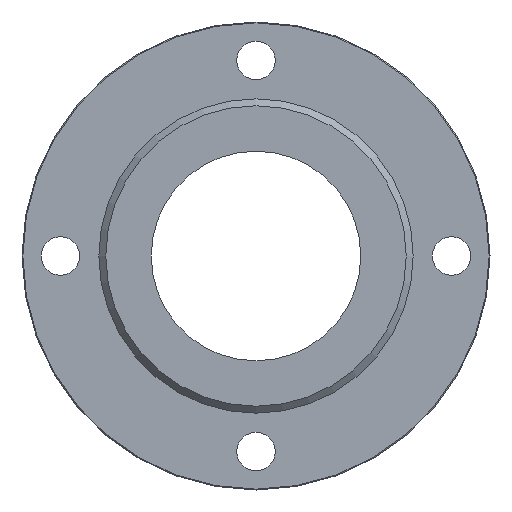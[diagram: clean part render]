
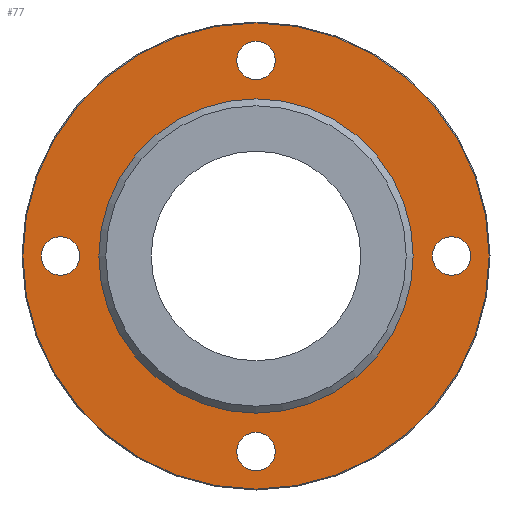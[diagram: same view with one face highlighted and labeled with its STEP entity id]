
A CAD part, left-side view. The second image highlights one B-rep face of the part: STEP entity #77.
In plain terms, the highlighted planar face has unit normal (-1, 0, 0).
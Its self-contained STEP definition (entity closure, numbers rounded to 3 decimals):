
#77=ADVANCED_FACE('',(#103,#104,#105,#106,#107,#108),#109,.F.);
#103=FACE_BOUND('',#174,.T.);
#104=FACE_BOUND('',#175,.T.);
#105=FACE_BOUND('',#176,.T.);
#106=FACE_BOUND('',#177,.T.);
#107=FACE_BOUND('',#178,.T.);
#108=FACE_OUTER_BOUND('',#179,.T.);
#109=PLANE('',#180);
#174=EDGE_LOOP('',(#249));
#175=EDGE_LOOP('',(#250));
#176=EDGE_LOOP('',(#251));
#177=EDGE_LOOP('',(#252));
#178=EDGE_LOOP('',(#253));
#179=EDGE_LOOP('',(#254));
#180=AXIS2_PLACEMENT_3D('',#255,#256,#257);
#249=ORIENTED_EDGE('',*,*,#355,.T.);
#250=ORIENTED_EDGE('',*,*,#356,.T.);
#251=ORIENTED_EDGE('',*,*,#357,.T.);
#252=ORIENTED_EDGE('',*,*,#358,.T.);
#253=ORIENTED_EDGE('',*,*,#359,.T.);
#254=ORIENTED_EDGE('',*,*,#354,.F.);
#255=CARTESIAN_POINT('',(-24.0,45.0,0.0));
#256=DIRECTION('',(1.0,0.0,0.0));
#257=DIRECTION('',(0.0,0.0,-1.0));
#354=EDGE_CURVE('',#381,#381,#382,.T.);
#355=EDGE_CURVE('',#383,#383,#384,.T.);
#356=EDGE_CURVE('',#385,#385,#386,.T.);
#357=EDGE_CURVE('',#387,#387,#388,.T.);
#358=EDGE_CURVE('',#389,#389,#390,.T.);
#359=EDGE_CURVE('',#391,#391,#392,.T.);
#381=VERTEX_POINT('',#431);
#382=CIRCLE('',#432,66.746);
#383=VERTEX_POINT('',#433);
#384=CIRCLE('',#434,45.0);
#385=VERTEX_POINT('',#435);
#386=CIRCLE('',#436,5.5);
#387=VERTEX_POINT('',#437);
#388=CIRCLE('',#438,5.5);
#389=VERTEX_POINT('',#439);
#390=CIRCLE('',#440,5.5);
#391=VERTEX_POINT('',#441);
#392=CIRCLE('',#442,5.5);
#431=CARTESIAN_POINT('',(-24.0,0.0,-66.746));
#432=AXIS2_PLACEMENT_3D('',#483,#484,#485);
#433=CARTESIAN_POINT('',(-24.0,0.0,-45.0));
#434=AXIS2_PLACEMENT_3D('',#486,#487,#488);
#435=CARTESIAN_POINT('',(-24.0,0.0,50.5));
#436=AXIS2_PLACEMENT_3D('',#489,#490,#491);
#437=CARTESIAN_POINT('',(-24.0,-56.0,-5.5));
#438=AXIS2_PLACEMENT_3D('',#492,#493,#494);
#439=CARTESIAN_POINT('',(-24.0,0.0,-61.5));
#440=AXIS2_PLACEMENT_3D('',#495,#496,#497);
#441=CARTESIAN_POINT('',(-24.0,56.0,-5.5));
#442=AXIS2_PLACEMENT_3D('',#498,#499,#500);
#483=CARTESIAN_POINT('',(-24.0,0.0,0.0));
#484=DIRECTION('',(1.0,0.0,0.0));
#485=DIRECTION('',(0.0,0.0,-1.0));
#486=CARTESIAN_POINT('',(-24.0,0.0,0.0));
#487=DIRECTION('',(1.0,0.0,0.0));
#488=DIRECTION('',(0.0,0.0,-1.0));
#489=CARTESIAN_POINT('',(-24.0,0.0,56.0));
#490=DIRECTION('',(1.0,0.0,0.0));
#491=DIRECTION('',(0.0,0.0,-1.0));
#492=CARTESIAN_POINT('',(-24.0,-56.0,0.0));
#493=DIRECTION('',(1.0,0.0,0.0));
#494=DIRECTION('',(0.0,0.0,-1.0));
#495=CARTESIAN_POINT('',(-24.0,0.0,-56.0));
#496=DIRECTION('',(1.0,0.0,0.0));
#497=DIRECTION('',(0.0,0.0,-1.0));
#498=CARTESIAN_POINT('',(-24.0,56.0,0.0));
#499=DIRECTION('',(1.0,0.0,0.0));
#500=DIRECTION('',(0.0,0.0,-1.0));
